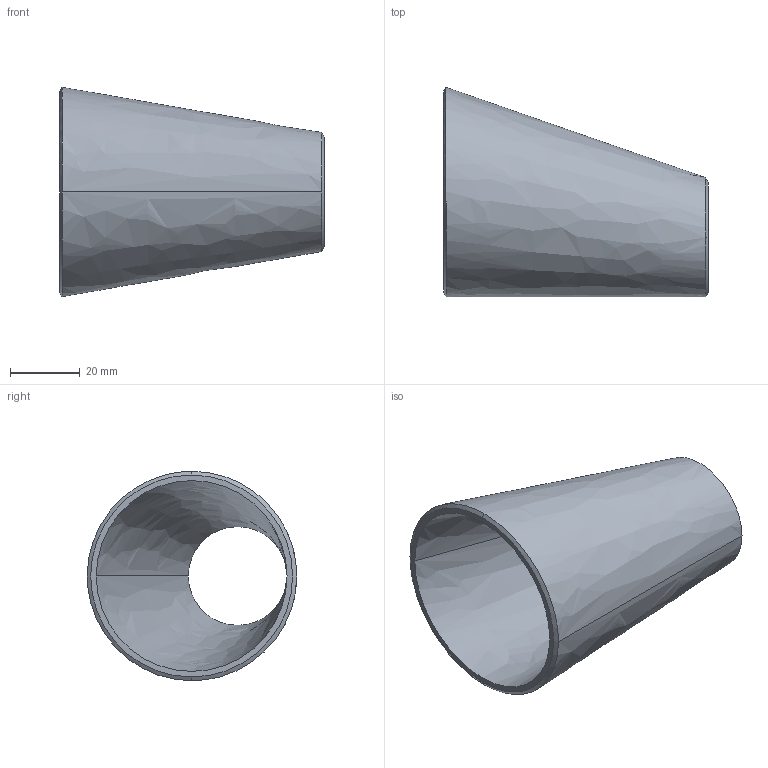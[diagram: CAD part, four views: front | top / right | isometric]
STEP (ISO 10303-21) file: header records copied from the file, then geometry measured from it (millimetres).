
FILE_DESCRIPTION (( 'STEP AP214' ), '1' );
FILE_NAME ('Eccentricity-reducer(2)_Sch10S-50Ax25A.STEP', '2022-06-27T05:49:25', ( 'ASIS User' ), ( 'ASIS User' ), 'SwSTEP 2.0', 'SolidWorks 2022', '' );
FILE_SCHEMA (( 'AUTOMOTIVE_DESIGN' ));
Length unit declared in the file: millimetre
Products named in the file (1): Eccentricity-reducer(2)_Sch10S-50Ax25A
Bounding box: 76.2 x 60.28 x 60.26 mm (x, y, z)
Volume: 29628.4 mm3; surface area: 22368.9 mm2
Topology: 1 solids, 1 shells, 10 faces, 24 edges, 16 vertices
Faces by surface type: cone 4, bspline 4, plane 2
Entity records: 818 total; most frequent: CARTESIAN_POINT 571, ORIENTED_EDGE 48, DIRECTION 34, EDGE_CURVE 24, VERTEX_POINT 16, AXIS2_PLACEMENT_3D 15, EDGE_LOOP 12, B_SPLINE_CURVE_WITH_KNOTS 12
